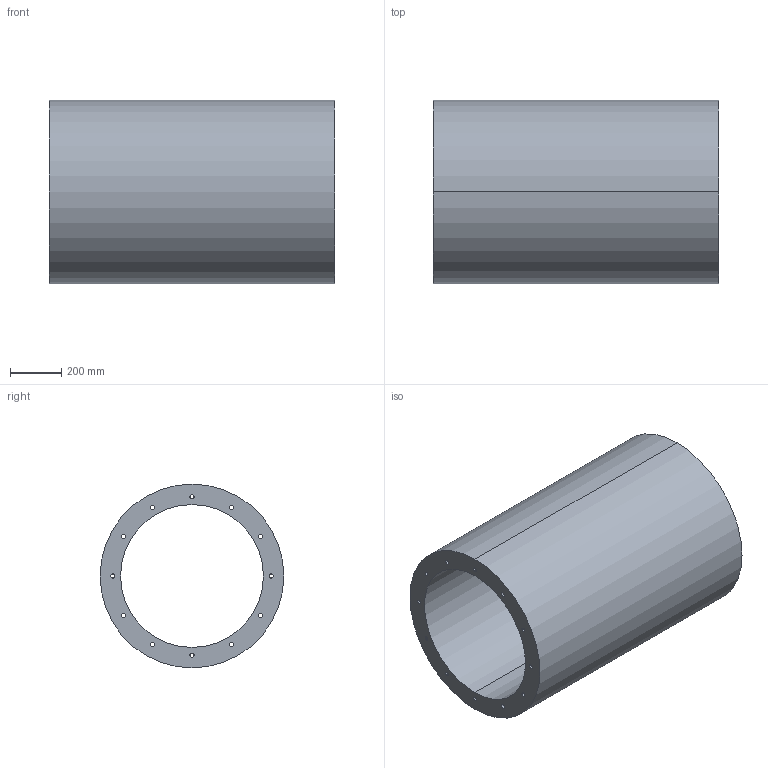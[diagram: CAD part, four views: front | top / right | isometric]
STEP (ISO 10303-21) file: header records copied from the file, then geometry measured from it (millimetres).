
FILE_DESCRIPTION(('STEP AP214'),'1');
FILE_NAME('accessory_5211811100.stp','2017-10-09T11:38:12',('TraceParts'),('TraceParts S.A.'),'Spatial InterOp 3D',' ',' ');
FILE_SCHEMA(('automotive_design'));
Length unit declared in the file: millimetre
Products named in the file (1): accessory_5211811100
Bounding box: 1120 x 720 x 720 mm (x, y, z)
Volume: 177449216.8 mm3; surface area: 5496228.9 mm2
Topology: 1 solids, 1 shells, 30 faces, 84 edges, 56 vertices
Faces by surface type: cylinder 28, plane 2
Entity records: 1312 total; most frequent: DIRECTION 202, CARTESIAN_POINT 171, ORIENTED_EDGE 168, AXIS2_PLACEMENT_3D 87, EDGE_CURVE 84, EDGE_LOOP 56, VERTEX_POINT 56, CIRCLE 56
